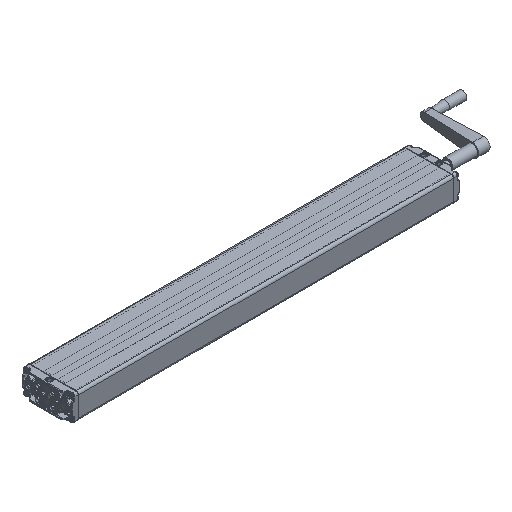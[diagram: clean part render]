
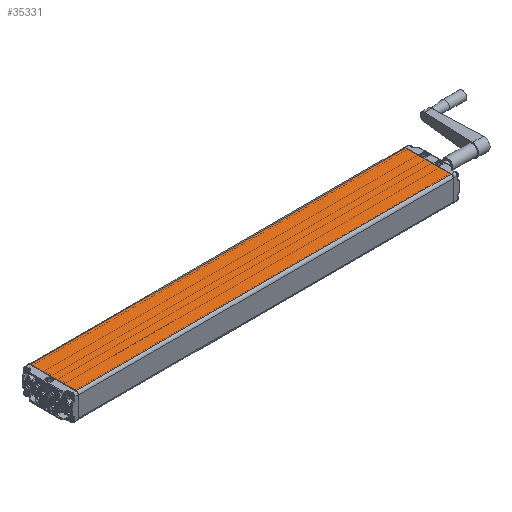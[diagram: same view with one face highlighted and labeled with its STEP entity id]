
A CAD part, isometric view. The second image highlights one B-rep face of the part: STEP entity #35331.
In plain terms, the highlighted planar face has unit normal (0, 0, 1).
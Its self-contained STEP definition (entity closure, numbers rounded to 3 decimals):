
#3673=LINE('',#75945,#5032);
#3674=LINE('',#75948,#5033);
#3675=LINE('',#75950,#5034);
#3676=LINE('',#75952,#5035);
#5032=VECTOR('',#43155,1000.);
#5033=VECTOR('',#43156,1000.);
#5034=VECTOR('',#43157,1000.);
#5035=VECTOR('',#43158,1000.);
#10657=ORIENTED_EDGE('',*,*,#16874,.T.);
#10658=ORIENTED_EDGE('',*,*,#16875,.T.);
#10659=ORIENTED_EDGE('',*,*,#16876,.T.);
#10660=ORIENTED_EDGE('',*,*,#16877,.T.);
#16874=EDGE_CURVE('',#20244,#20245,#3673,.F.);
#16875=EDGE_CURVE('',#20245,#20246,#3674,.T.);
#16876=EDGE_CURVE('',#20246,#20247,#3675,.T.);
#16877=EDGE_CURVE('',#20247,#20244,#3676,.F.);
#20244=VERTEX_POINT('',#75946);
#20245=VERTEX_POINT('',#75947);
#20246=VERTEX_POINT('',#75949);
#20247=VERTEX_POINT('',#75951);
#23933=EDGE_LOOP('',(#10657,#10658,#10659,#10660));
#26053=FACE_BOUND('',#23933,.T.);
#27242=PLANE('',#37788);
#35331=ADVANCED_FACE('',(#26053),#27242,.T.);
#37788=AXIS2_PLACEMENT_3D('',#75944,#43153,#43154);
#43153=DIRECTION('',(0.,0.,1.));
#43154=DIRECTION('',(1.,0.,0.));
#43155=DIRECTION('',(0.,-1.,0.));
#43156=DIRECTION('',(-1.,0.,0.));
#43157=DIRECTION('',(0.,-1.,0.));
#43158=DIRECTION('',(-1.,0.,0.));
#75944=CARTESIAN_POINT('',(60.,893.5,30.));
#75945=CARTESIAN_POINT('',(54.,893.5,30.));
#75946=CARTESIAN_POINT('',(54.,0.5,30.));
#75947=CARTESIAN_POINT('',(54.,893.,30.));
#75948=CARTESIAN_POINT('',(60.,893.,30.));
#75949=CARTESIAN_POINT('',(-54.,893.,30.));
#75950=CARTESIAN_POINT('',(-54.,893.5,30.));
#75951=CARTESIAN_POINT('',(-54.,0.5,30.));
#75952=CARTESIAN_POINT('',(54.,0.5,30.));
